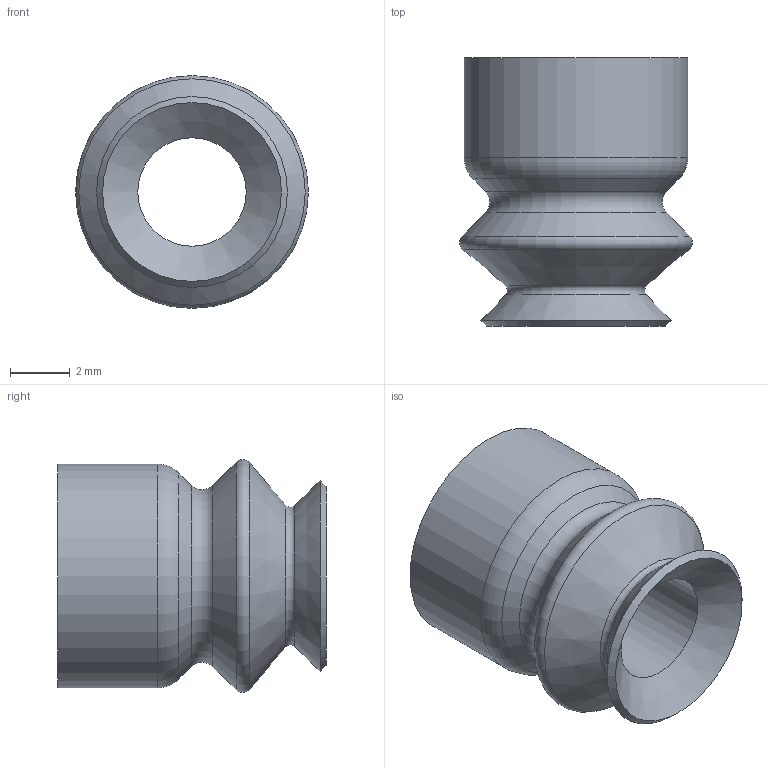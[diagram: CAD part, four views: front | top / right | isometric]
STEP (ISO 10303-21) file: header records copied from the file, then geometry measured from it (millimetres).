
FILE_DESCRIPTION(('STEP AP203'),'1');
FILE_NAME('_3D.stp','2025-02-13T07:46:43',(' '),(' '),'Spatial InterOp 3D',' ',' ');
FILE_SCHEMA(('CONFIG_CONTROL_DESIGN'));
Length unit declared in the file: millimetre
Products named in the file (1): 1
Bounding box: 7.81 x 9 x 7.81 mm (x, y, z)
Volume: 186.7 mm3; surface area: 410.3 mm2
Topology: 1 solids, 1 shells, 21 faces, 50 edges, 31 vertices
Faces by surface type: torus 8, cone 7, cylinder 4, plane 2
Full cylindrical faces by diameter (mm): 3.64 x1, 4 x1, 6 x1, 7.5 x1
Entity records: 472 total; most frequent: DIRECTION 86, CARTESIAN_POINT 64, AXIS2_PLACEMENT_3D 43, EDGE_LOOP 42, ORIENTED_EDGE 42, FACE_OUTER_BOUND 33, ADVANCED_FACE 21, EDGE_CURVE 21
